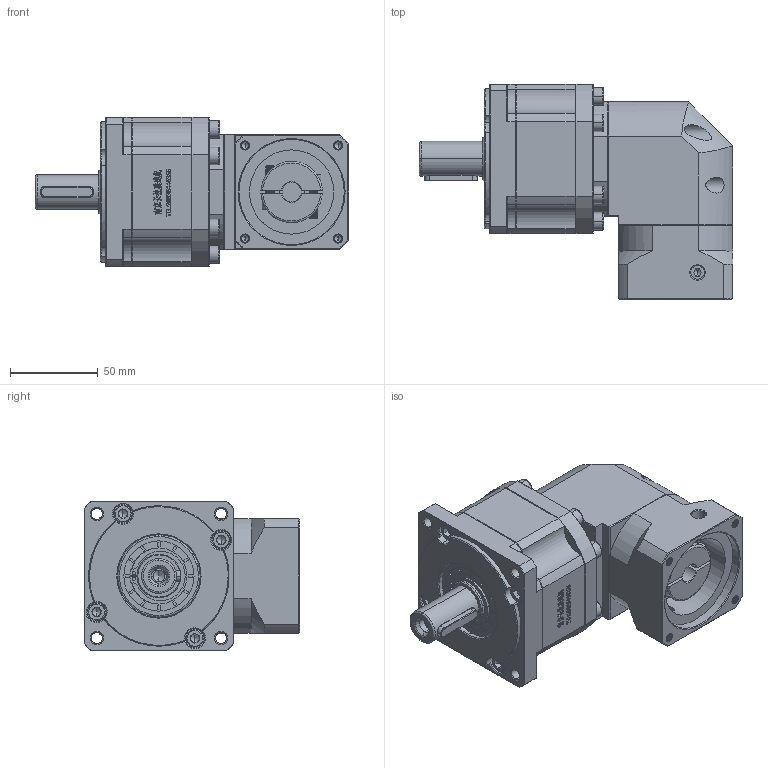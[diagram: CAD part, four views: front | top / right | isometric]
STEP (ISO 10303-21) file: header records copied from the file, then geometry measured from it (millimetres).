
FILE_DESCRIPTION (( 'STEP AP214' ), '1' );
FILE_NAME ('ZBR90-D20-L2-11-60-75-M5.step', '2022-05-07T15:15:14', ( '' ), ( 'Microsoft' ), 'SwSTEP 2.0', 'SolidWorks 2016', '' );
FILE_SCHEMA (( 'AUTOMOTIVE_DESIGN' ));
Length unit declared in the file: millimetre
Products named in the file (1): ZBR90-D20-L2-11-60-75-M5
Bounding box: 178.5 x 122.7 x 85 mm (x, y, z)
Volume: 814854.7 mm3; surface area: 100849 mm2
Topology: 5 solids, 5 shells, 3040 faces, 8136 edges, 5240 vertices
Faces by surface type: plane 1598, bspline 620, cylinder 445, cone 369, torus 8
Entity records: 163661 total; most frequent: CARTESIAN_POINT 58992, ORIENTED_EDGE 16180, DIRECTION 12428, EDGE_CURVE 8090, VECTOR 5350, LINE 5350, VERTEX_POINT 5240, AXIS2_PLACEMENT_3D 3539
